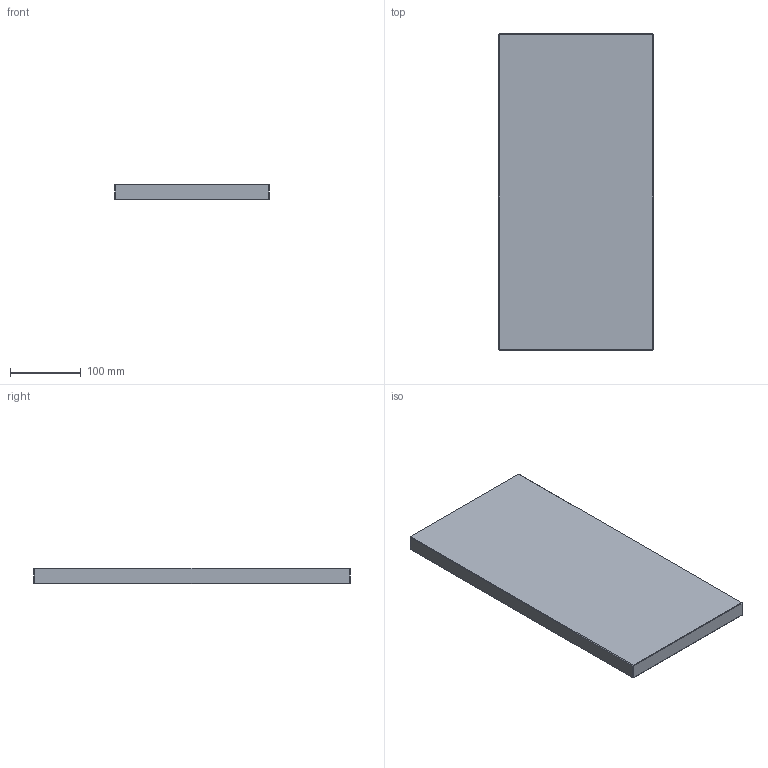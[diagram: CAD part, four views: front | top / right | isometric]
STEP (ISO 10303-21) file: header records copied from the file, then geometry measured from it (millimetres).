
FILE_DESCRIPTION (( 'STEP AP214' ), '1' );
FILE_NAME ('CPE-P-346x446x22.STEP', '2021-03-25T13:55:31', ( '' ), ( '' ), 'SwSTEP 2.0', 'SolidWorks 2018', '' );
FILE_SCHEMA (( 'AUTOMOTIVE_DESIGN' ));
Length unit declared in the file: millimetre
Products named in the file (1): CPE-P-346x446x22
Bounding box: 218 x 446 x 22 mm (x, y, z)
Volume: 2137649.3 mm3; surface area: 222061.6 mm2
Topology: 1 solids, 1 shells, 26 faces, 48 edges, 24 vertices
Faces by surface type: plane 26
Entity records: 634 total; most frequent: DIRECTION 102, CARTESIAN_POINT 99, ORIENTED_EDGE 96, LINE 48, EDGE_CURVE 48, VECTOR 48, AXIS2_PLACEMENT_3D 27, FACE_OUTER_BOUND 26
